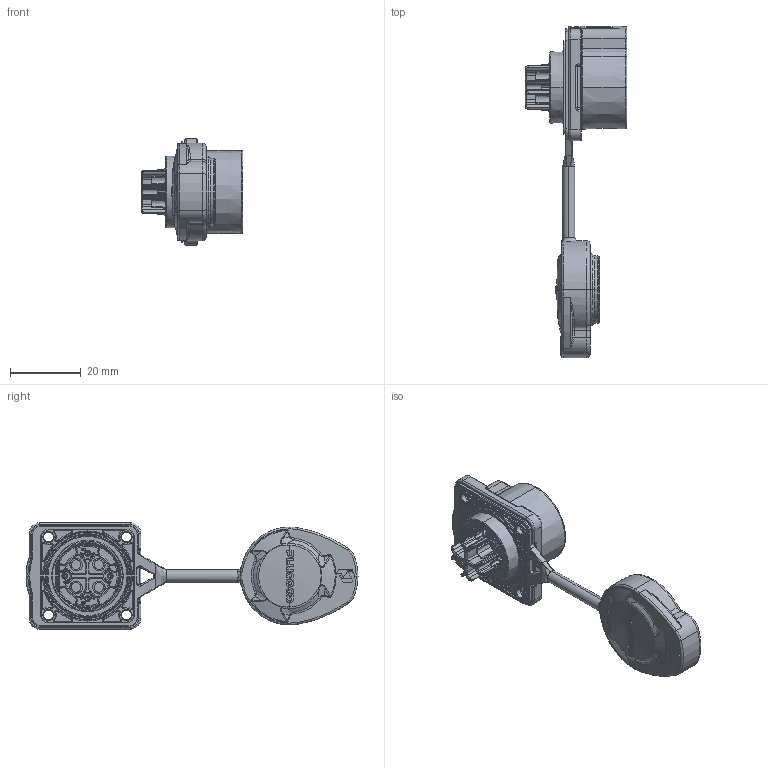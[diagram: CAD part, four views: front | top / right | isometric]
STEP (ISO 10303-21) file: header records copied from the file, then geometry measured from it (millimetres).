
FILE_DESCRIPTION (( 'STEP AP203' ), '1' );
FILE_NAME ('PLG20 4+4芯四孔法兰母插座.STEP', '2025-11-12T10:53:47', ( '' ), ( '' ), 'SwSTEP 2.0', 'SolidWorks 2024', '' );
FILE_SCHEMA (( 'CONFIG_CONTROL_DESIGN' ));
Length unit declared in the file: millimetre
Products named in the file (1): PLG20 4+4芯四孔法兰母插座
Bounding box: 28.7 x 93.64 x 30 mm (x, y, z)
Volume: 12555.9 mm3; surface area: 12688.8 mm2
Topology: 1 solids, 2 shells, 1996 faces, 5107 edges, 3151 vertices
Faces by surface type: cylinder 582, plane 498, torus 395, bspline 374, cone 123, sphere 24
Entity records: 73515 total; most frequent: CARTESIAN_POINT 27627, ORIENTED_EDGE 10106, DIRECTION 9084, EDGE_CURVE 5053, AXIS2_PLACEMENT_3D 3651, VERTEX_POINT 3143, EDGE_LOOP 2094, CIRCLE 2028
